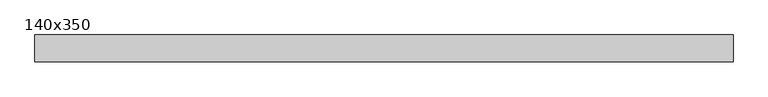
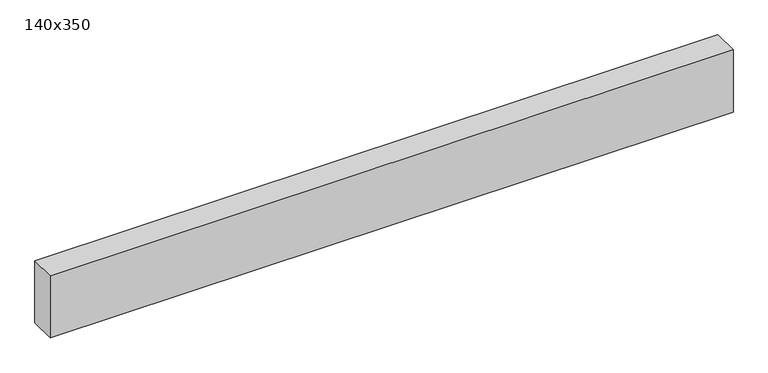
"""IFC4 building model written with IfcOpenShell, lengths in millimetres: beam geometry, Bjelke Limtre Stiplet : 140x350."""

from ifc_helpers import new_model, si_unit, frame, origin, place, context, project, spatial, polyline, outline, extrude, source, transform, mapped, element, save


def beam_140x350_a3bab070(model_context):
    return source(origin(), model_context, "Body", "SweptSolid", [
        extrude(outline(polyline([(1815.1852007, 70.0), (1815.1852007, -70.0), (-1826.7808434, -70.0), (-1826.7808434, 70.0), (1815.1852007, 70.0)])), frame((0.0, 0.0, -301.0), z_axis=(0.0, 0.0, 1.0), x_axis=(1.0, 0.0, 0.0)), (0.0, 0.0, 1.0), 350.0),
    ])


if __name__ == "__main__":
    model = new_model("IFC4")
    model_context = context("Model", 3, world=origin())
    ifc_project = project(units=[si_unit("LENGTHUNIT", "METRE", prefix="MILLI")], contexts=[model_context])
    site = spatial("IfcSite", under=ifc_project)
    building = spatial("IfcBuilding", under=site)
    placement = place(None, origin())
    beam_140x350_shape = beam_140x350_a3bab070(model_context)
    element("IfcBeam", 1, ObjectType="Bjelke Limtre Stiplet : 140x350", at=placement, inside=building, context=model_context, shape_type="MappedRepresentation", body=[
        mapped(beam_140x350_shape, transform((0.0, 0.0, 0.0), x_axis=(1.0, 0.0, 0.0), y_axis=(0.0, 1.0, 0.0), z_axis=(0.0, 0.0, 1.0))),
    ])
    save(model, "model.ifc")
